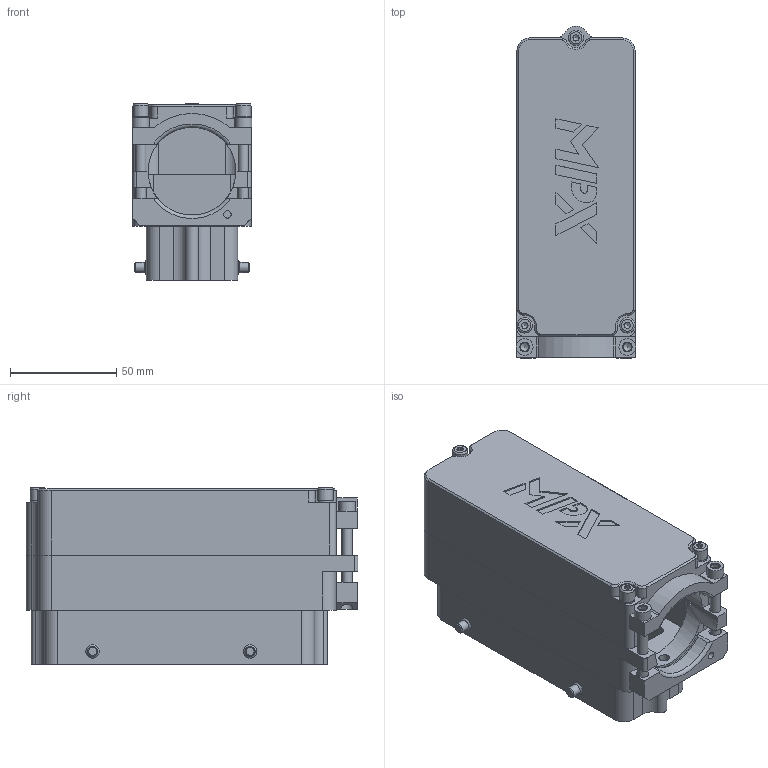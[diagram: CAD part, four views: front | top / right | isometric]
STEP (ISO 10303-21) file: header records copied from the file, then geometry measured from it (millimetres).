
FILE_DESCRIPTION((''),'2;1');
FILE_NAME('C:\old_Drawings\shrinkwrapped website .stp files\302000-19-STP.stp','2011-11-02T08:52:11',('GaryRobinson'),(''),'Autodesk Inventor 2011','Autodesk Inventor 2011','');
FILE_SCHEMA(('AUTOMOTIVE_DESIGN { 1 0 10303 214 1 1 1 1 }'));
Length unit declared in the file: inch
Products named in the file (1): 302000-19-STP
Bounding box: 56.12 x 155.87 x 83.08 mm (x, y, z)
Surface area: 91544.8 mm2 (no closed solid volume)
Topology: 0 solids, 26 shells, 539 faces, 1323 edges, 851 vertices
Faces by surface type: plane 288, cylinder 164, cone 71, torus 10, bspline 6
Full cylindrical faces by diameter (mm): 0.025 x3, 0.051 x2, 2.845 x4, 2.87 x3, 2.896 x3, 3.302 x3, 3.429 x2, 3.505 x10, 4.166 x10, 4.318 x3, 4.496 x3, 4.826 x6, 4.928 x2, 5.207 x4, 5.842 x2, 6.426 x4, 7.144 x3, 7.188 x3, 7.925 x2
Entity records: 20204 total; most frequent: CARTESIAN_POINT 7230, DIRECTION 2620, ORIENTED_EDGE 2330, EDGE_CURVE 1165, AXIS2_PLACEMENT_3D 976, VERTEX_POINT 815, EDGE_LOOP 720, VECTOR 668
